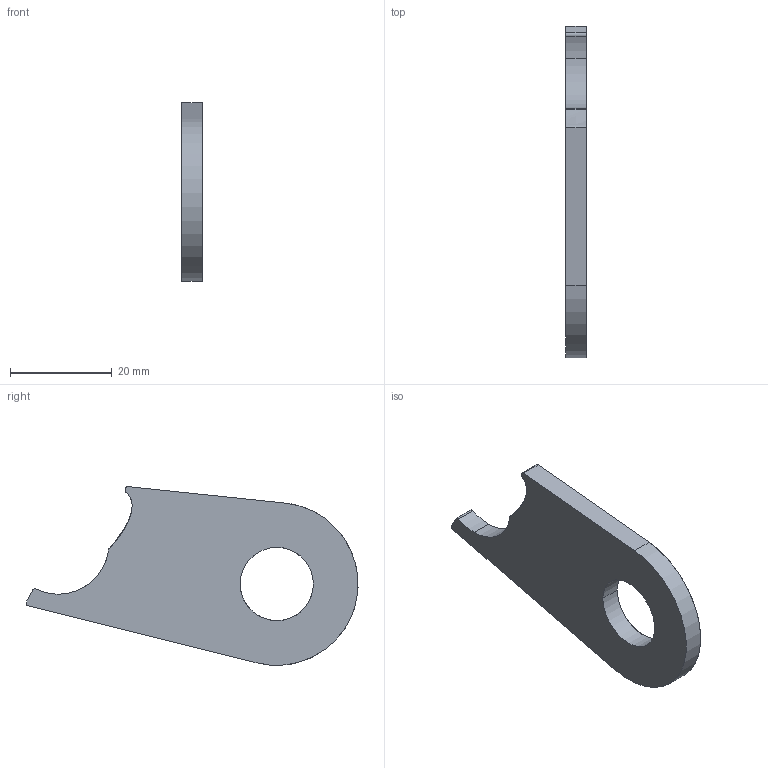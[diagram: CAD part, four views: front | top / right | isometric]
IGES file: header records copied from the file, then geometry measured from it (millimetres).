
Start section: START RECORD GO HERE.
Global section: file name: 20M_DT_ULL.igs; native system: IBM CATIA IGES - CATIA Version 5 Release 19 ; preprocessor: CATIA Version 5 Release 19 ; author: alexb; organization: LAPTOP-PR6NE7IP; date: 20191217.142929; units: millimetre
Bounding box: 4 x 65.3 x 35.15 mm (x, y, z)
Surface area: 6848.7 mm2 (no closed solid volume)
Topology: 0 solids, 0 shells, 36 faces, 192 edges, 192 vertices
Faces by surface type: revolution 20, plane 12, extrusion 4
